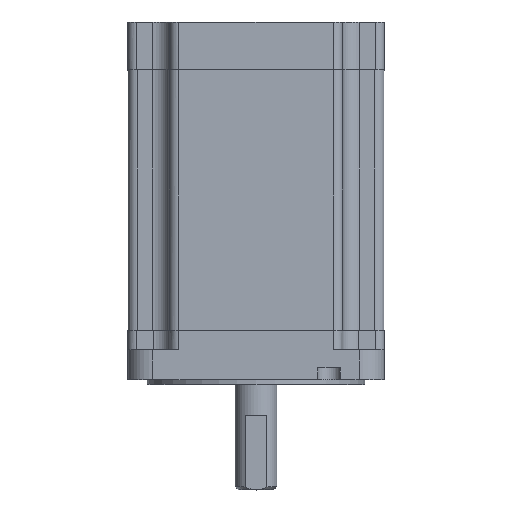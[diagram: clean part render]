
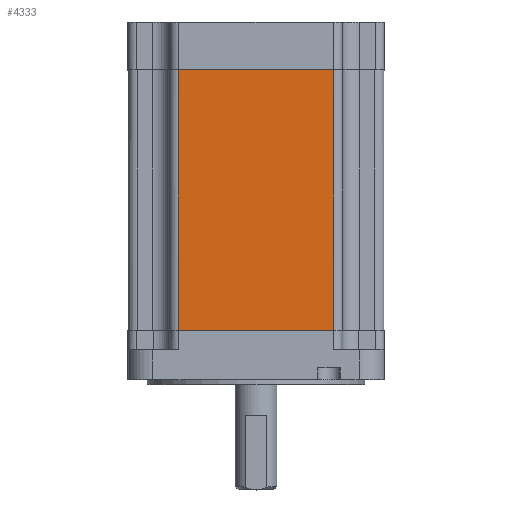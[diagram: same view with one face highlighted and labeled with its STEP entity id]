
A CAD part, top view. The second image highlights one B-rep face of the part: STEP entity #4333.
In plain terms, the highlighted planar face has unit normal (0, 0, 1).
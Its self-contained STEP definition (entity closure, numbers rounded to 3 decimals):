
#3167=CARTESIAN_POINT('',(26.1,-104.925,42.93));
#3168=VERTEX_POINT('',#3167);
#3176=CARTESIAN_POINT('',(-26.1,-104.925,42.93));
#3177=VERTEX_POINT('',#3176);
#3178=CARTESIAN_POINT('',(26.1,-104.925,42.93));
#3179=DIRECTION('',(-1.,0.,0.));
#3180=VECTOR('',#3179,52.2);
#3181=LINE('',#3178,#3180);
#3182=EDGE_CURVE('',#3168,#3177,#3181,.T.);
#4282=CARTESIAN_POINT('',(-26.1,-17.425,42.93));
#4283=VERTEX_POINT('',#4282);
#4284=CARTESIAN_POINT('',(-26.1,-104.925,42.93));
#4285=DIRECTION('',(0.,1.,0.));
#4286=VECTOR('',#4285,87.5);
#4287=LINE('',#4284,#4286);
#4288=EDGE_CURVE('',#3177,#4283,#4287,.T.);
#4310=CARTESIAN_POINT('',(0.,-18.175,42.93));
#4311=DIRECTION('',(-1.,0.,0.));
#4312=DIRECTION('',(0.,0.,1.));
#4313=AXIS2_PLACEMENT_3D('',#4310,#4312,#4311);
#4314=PLANE('',#4313);
#4315=ORIENTED_EDGE('',*,*,#3182,.F.);
#4316=CARTESIAN_POINT('',(26.1,-17.425,42.93));
#4317=VERTEX_POINT('',#4316);
#4318=CARTESIAN_POINT('',(26.1,-104.925,42.93));
#4319=DIRECTION('',(0.,1.,0.));
#4320=VECTOR('',#4319,87.5);
#4321=LINE('',#4318,#4320);
#4322=EDGE_CURVE('',#3168,#4317,#4321,.T.);
#4323=ORIENTED_EDGE('E352',*,*,#4322,.T.);
#4324=CARTESIAN_POINT('',(26.1,-17.425,42.93));
#4325=DIRECTION('',(-1.,0.,0.));
#4326=VECTOR('',#4325,52.2);
#4327=LINE('',#4324,#4326);
#4328=EDGE_CURVE('',#4317,#4283,#4327,.T.);
#4329=ORIENTED_EDGE('E353',*,*,#4328,.T.);
#4330=ORIENTED_EDGE('E353',*,*,#4288,.F.);
#4331=EDGE_LOOP('',(#4315,#4323,#4329,#4330));
#4332=FACE_OUTER_BOUND('',#4331,.T.);
#4333=ADVANCED_FACE('F141',(#4332),#4314,.T.);
